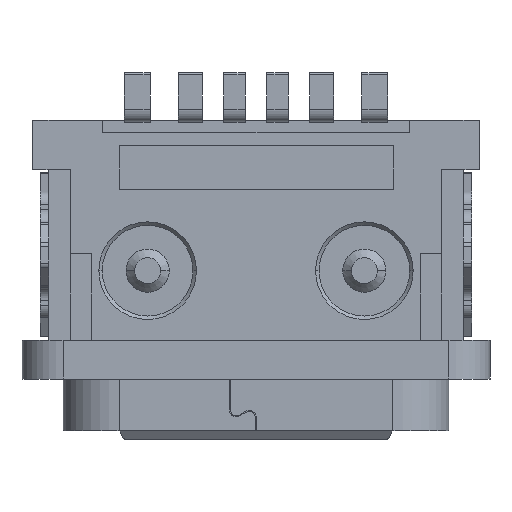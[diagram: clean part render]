
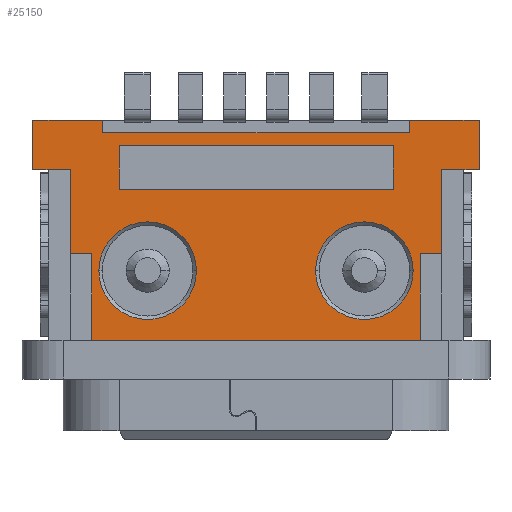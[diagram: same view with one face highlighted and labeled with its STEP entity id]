
A CAD part, front view. The second image highlights one B-rep face of the part: STEP entity #25150.
In plain terms, the highlighted planar face has unit normal (0, -1, 0).
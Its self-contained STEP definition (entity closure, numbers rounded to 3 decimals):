
#23740=DIRECTION('',(0.,0.,-1.));
#23741=VECTOR('',#23740,1.95);
#23742=CARTESIAN_POINT('',(34.3,-2.16,6.35));
#23743=LINE('',#23742,#23741);
#23744=DIRECTION('',(-1.,0.,0.));
#23745=VECTOR('',#23744,0.5);
#23746=CARTESIAN_POINT('',(34.3,-2.16,4.4));
#23747=LINE('',#23746,#23745);
#23748=DIRECTION('',(0.,0.,-1.));
#23749=VECTOR('',#23748,2.);
#23750=CARTESIAN_POINT('',(33.8,-2.16,4.4));
#23751=LINE('',#23750,#23749);
#23752=DIRECTION('',(-1.,0.,0.));
#23753=VECTOR('',#23752,7.6);
#23754=CARTESIAN_POINT('',(33.8,-2.16,2.4));
#23755=LINE('',#23754,#23753);
#23756=DIRECTION('',(0.,0.,1.));
#23757=VECTOR('',#23756,2.);
#23758=CARTESIAN_POINT('',(26.2,-2.16,2.4));
#23759=LINE('',#23758,#23757);
#23760=DIRECTION('',(-1.,0.,0.));
#23761=VECTOR('',#23760,0.5);
#23762=CARTESIAN_POINT('',(26.2,-2.16,4.4));
#23763=LINE('',#23762,#23761);
#23764=DIRECTION('',(0.,0.,1.));
#23765=VECTOR('',#23764,1.95);
#23766=CARTESIAN_POINT('',(25.7,-2.16,4.4));
#23767=LINE('',#23766,#23765);
#23768=DIRECTION('',(-1.,0.,0.));
#23769=VECTOR('',#23768,0.87);
#23770=CARTESIAN_POINT('',(25.7,-2.16,6.35));
#23771=LINE('',#23770,#23769);
#23772=DIRECTION('',(0.,0.,1.));
#23773=VECTOR('',#23772,1.15);
#23774=CARTESIAN_POINT('',(24.83,-2.16,6.35));
#23775=LINE('',#23774,#23773);
#23776=DIRECTION('',(1.,0.,0.));
#23777=VECTOR('',#23776,1.62);
#23778=CARTESIAN_POINT('',(24.83,-2.16,7.5));
#23779=LINE('',#23778,#23777);
#23780=DIRECTION('',(0.,0.,-1.));
#23781=VECTOR('',#23780,0.3);
#23782=CARTESIAN_POINT('',(26.45,-2.16,7.5));
#23783=LINE('',#23782,#23781);
#23784=DIRECTION('',(1.,0.,0.));
#23785=VECTOR('',#23784,7.1);
#23786=CARTESIAN_POINT('',(26.45,-2.16,7.2));
#23787=LINE('',#23786,#23785);
#23788=DIRECTION('',(0.,0.,1.));
#23789=VECTOR('',#23788,0.3);
#23790=CARTESIAN_POINT('',(33.55,-2.16,7.2));
#23791=LINE('',#23790,#23789);
#23792=DIRECTION('',(1.,0.,0.));
#23793=VECTOR('',#23792,1.62);
#23794=CARTESIAN_POINT('',(33.55,-2.16,7.5));
#23795=LINE('',#23794,#23793);
#23796=DIRECTION('',(0.,0.,-1.));
#23797=VECTOR('',#23796,1.15);
#23798=CARTESIAN_POINT('',(35.17,-2.16,7.5));
#23799=LINE('',#23798,#23797);
#23800=DIRECTION('',(-1.,0.,0.));
#23801=VECTOR('',#23800,0.87);
#23802=CARTESIAN_POINT('',(35.17,-2.16,6.35));
#23803=LINE('',#23802,#23801);
#23804=CARTESIAN_POINT('',(32.51,-2.16,4.01));
#23805=DIRECTION('',(0.,-1.,0.));
#23806=DIRECTION('',(1.,0.,0.));
#23807=AXIS2_PLACEMENT_3D('',#23804,#23805,#23806);
#23809=CARTESIAN_POINT('',(32.51,-2.16,4.01));
#23810=DIRECTION('',(0.,-1.,0.));
#23811=DIRECTION('',(-1.,0.,0.));
#23812=AXIS2_PLACEMENT_3D('',#23809,#23810,#23811);
#23814=CARTESIAN_POINT('',(27.49,-2.16,4.01));
#23815=DIRECTION('',(0.,-1.,0.));
#23816=DIRECTION('',(1.,0.,0.));
#23817=AXIS2_PLACEMENT_3D('',#23814,#23815,#23816);
#23819=CARTESIAN_POINT('',(27.49,-2.16,4.01));
#23820=DIRECTION('',(0.,-1.,0.));
#23821=DIRECTION('',(-1.,0.,0.));
#23822=AXIS2_PLACEMENT_3D('',#23819,#23820,#23821);
#24479=CARTESIAN_POINT('',(26.2,-2.16,2.4));
#24480=VERTEX_POINT('',#24479);
#24481=CARTESIAN_POINT('',(33.8,-2.16,2.4));
#24482=VERTEX_POINT('',#24481);
#24511=CARTESIAN_POINT('',(25.7,-2.16,4.4));
#24512=CARTESIAN_POINT('',(25.7,-2.16,6.35));
#24513=VERTEX_POINT('',#24511);
#24514=VERTEX_POINT('',#24512);
#24517=CARTESIAN_POINT('',(34.3,-2.16,6.35));
#24518=CARTESIAN_POINT('',(34.3,-2.16,4.4));
#24519=VERTEX_POINT('',#24517);
#24520=VERTEX_POINT('',#24518);
#24521=CARTESIAN_POINT('',(33.8,-2.16,4.4));
#24522=VERTEX_POINT('',#24521);
#24523=CARTESIAN_POINT('',(26.2,-2.16,4.4));
#24524=VERTEX_POINT('',#24523);
#24525=CARTESIAN_POINT('',(24.83,-2.16,6.35));
#24526=VERTEX_POINT('',#24525);
#24527=CARTESIAN_POINT('',(24.83,-2.16,7.5));
#24528=VERTEX_POINT('',#24527);
#24529=CARTESIAN_POINT('',(26.45,-2.16,7.5));
#24530=VERTEX_POINT('',#24529);
#24531=CARTESIAN_POINT('',(26.45,-2.16,7.2));
#24532=VERTEX_POINT('',#24531);
#24533=CARTESIAN_POINT('',(33.55,-2.16,7.2));
#24534=VERTEX_POINT('',#24533);
#24535=CARTESIAN_POINT('',(33.55,-2.16,7.5));
#24536=VERTEX_POINT('',#24535);
#24537=CARTESIAN_POINT('',(35.17,-2.16,7.5));
#24538=VERTEX_POINT('',#24537);
#24539=CARTESIAN_POINT('',(35.17,-2.16,6.35));
#24540=VERTEX_POINT('',#24539);
#24541=CARTESIAN_POINT('',(33.64,-2.16,4.01));
#24542=CARTESIAN_POINT('',(31.38,-2.16,4.01));
#24543=VERTEX_POINT('',#24541);
#24544=VERTEX_POINT('',#24542);
#24545=CARTESIAN_POINT('',(28.62,-2.16,4.01));
#24546=CARTESIAN_POINT('',(26.36,-2.16,4.01));
#24547=VERTEX_POINT('',#24545);
#24548=VERTEX_POINT('',#24546);
#25101=CARTESIAN_POINT('',(30.,-2.16,4.95));
#25102=DIRECTION('',(0.,1.,0.));
#25103=DIRECTION('',(1.,0.,0.));
#25104=AXIS2_PLACEMENT_3D('',#25101,#25102,#25103);
#25105=PLANE('',#25104);
#25107=ORIENTED_EDGE('',*,*,#25106,.T.);
#25109=ORIENTED_EDGE('',*,*,#25108,.T.);
#25111=ORIENTED_EDGE('',*,*,#25110,.T.);
#25112=ORIENTED_EDGE('',*,*,#24946,.T.);
#25114=ORIENTED_EDGE('',*,*,#25113,.T.);
#25116=ORIENTED_EDGE('',*,*,#25115,.T.);
#25117=ORIENTED_EDGE('',*,*,#25088,.T.);
#25119=ORIENTED_EDGE('',*,*,#25118,.T.);
#25121=ORIENTED_EDGE('',*,*,#25120,.T.);
#25123=ORIENTED_EDGE('',*,*,#25122,.T.);
#25125=ORIENTED_EDGE('',*,*,#25124,.T.);
#25127=ORIENTED_EDGE('',*,*,#25126,.T.);
#25129=ORIENTED_EDGE('',*,*,#25128,.T.);
#25131=ORIENTED_EDGE('',*,*,#25130,.T.);
#25133=ORIENTED_EDGE('',*,*,#25132,.T.);
#25135=ORIENTED_EDGE('',*,*,#25134,.T.);
#25136=EDGE_LOOP('',(#25107,#25109,#25111,#25112,#25114,#25116,#25117,#25119,
#25121,#25123,#25125,#25127,#25129,#25131,#25133,#25135));
#25137=FACE_OUTER_BOUND('',#25136,.F.);
#25139=ORIENTED_EDGE('',*,*,#25138,.T.);
#25141=ORIENTED_EDGE('',*,*,#25140,.T.);
#25142=EDGE_LOOP('',(#25139,#25141));
#25143=FACE_BOUND('',#25142,.F.);
#25145=ORIENTED_EDGE('',*,*,#25144,.T.);
#25147=ORIENTED_EDGE('',*,*,#25146,.T.);
#25148=EDGE_LOOP('',(#25145,#25147));
#25149=FACE_BOUND('',#25148,.F.);
#25150=ADVANCED_FACE('',(#25137,#25143,#25149),#25105,.F.);
#23808=CIRCLE('',#23807,1.13);
#23813=CIRCLE('',#23812,1.13);
#23818=CIRCLE('',#23817,1.13);
#23823=CIRCLE('',#23822,1.13);
#24946=EDGE_CURVE('',#24482,#24480,#23755,.T.);
#25088=EDGE_CURVE('',#24513,#24514,#23767,.T.);
#25106=EDGE_CURVE('',#24519,#24520,#23743,.T.);
#25108=EDGE_CURVE('',#24520,#24522,#23747,.T.);
#25110=EDGE_CURVE('',#24522,#24482,#23751,.T.);
#25113=EDGE_CURVE('',#24480,#24524,#23759,.T.);
#25115=EDGE_CURVE('',#24524,#24513,#23763,.T.);
#25118=EDGE_CURVE('',#24514,#24526,#23771,.T.);
#25120=EDGE_CURVE('',#24526,#24528,#23775,.T.);
#25122=EDGE_CURVE('',#24528,#24530,#23779,.T.);
#25124=EDGE_CURVE('',#24530,#24532,#23783,.T.);
#25126=EDGE_CURVE('',#24532,#24534,#23787,.T.);
#25128=EDGE_CURVE('',#24534,#24536,#23791,.T.);
#25130=EDGE_CURVE('',#24536,#24538,#23795,.T.);
#25132=EDGE_CURVE('',#24538,#24540,#23799,.T.);
#25134=EDGE_CURVE('',#24540,#24519,#23803,.T.);
#25138=EDGE_CURVE('',#24543,#24544,#23808,.T.);
#25140=EDGE_CURVE('',#24544,#24543,#23813,.T.);
#25144=EDGE_CURVE('',#24547,#24548,#23818,.T.);
#25146=EDGE_CURVE('',#24548,#24547,#23823,.T.);
